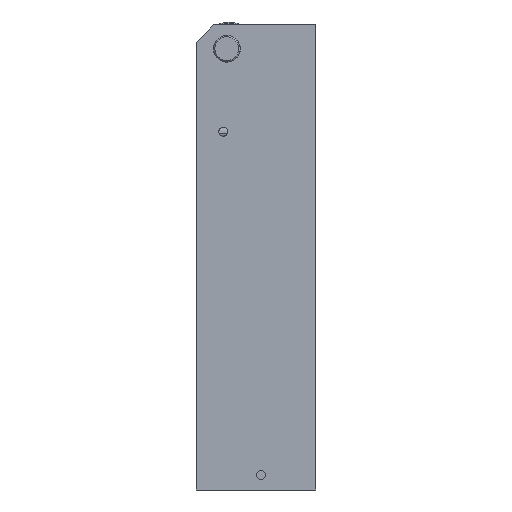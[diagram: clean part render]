
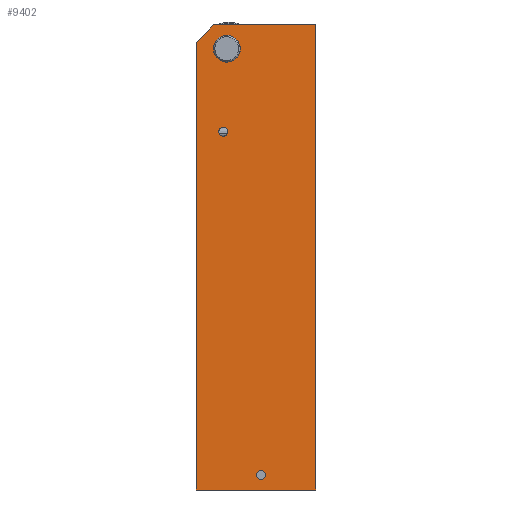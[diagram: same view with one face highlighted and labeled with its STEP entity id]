
A CAD part, left-side view. The second image highlights one B-rep face of the part: STEP entity #9402.
In plain terms, the highlighted planar face has unit normal (-1, 0, 0).
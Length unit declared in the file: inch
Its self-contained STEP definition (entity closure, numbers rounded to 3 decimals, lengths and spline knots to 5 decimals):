
#304 = VECTOR ( 'NONE', #2526, 39.37008 ) ;
#406 = ORIENTED_EDGE ( 'NONE', *, *, #13885, .F. ) ;
#506 = CARTESIAN_POINT ( 'NONE',  ( 0., 0.77, 0.21 ) ) ;
#941 = DIRECTION ( 'NONE',  ( 0., 0., -1. ) ) ;
#1142 = DIRECTION ( 'NONE',  ( -1., 0., 0. ) ) ;
#1381 = CIRCLE ( 'NONE', #3839, 0.0625 ) ;
#1515 = CARTESIAN_POINT ( 'NONE',  ( 0., 1.68, 0. ) ) ;
#1554 = EDGE_CURVE ( 'NONE', #1979, #1828, #4380, .T. ) ;
#1594 = DIRECTION ( 'NONE',  ( 0., 0., 1. ) ) ;
#1649 = CIRCLE ( 'NONE', #10324, 0.1885 ) ;
#1686 = CARTESIAN_POINT ( 'NONE',  ( 0., 0., 6.53 ) ) ;
#1698 = VERTEX_POINT ( 'NONE', #4925 ) ;
#1733 = LINE ( 'NONE', #12143, #8891 ) ;
#1828 = VERTEX_POINT ( 'NONE', #13759 ) ;
#1861 = VERTEX_POINT ( 'NONE', #8980 ) ;
#1897 = VERTEX_POINT ( 'NONE', #4368 ) ;
#1979 = VERTEX_POINT ( 'NONE', #4600 ) ;
#2139 = EDGE_CURVE ( 'NONE', #15239, #12662, #1733, .T. ) ;
#2526 = DIRECTION ( 'NONE',  ( 0., -1., 0. ) ) ;
#2556 = VECTOR ( 'NONE', #4243, 39.37008 ) ;
#2689 = DIRECTION ( 'NONE',  ( -1., 0., 0. ) ) ;
#2702 = DIRECTION ( 'NONE',  ( -1., 0., 0. ) ) ;
#2851 = ORIENTED_EDGE ( 'NONE', *, *, #14927, .F. ) ;
#3094 = ORIENTED_EDGE ( 'NONE', *, *, #10343, .F. ) ;
#3454 = LINE ( 'NONE', #10425, #13818 ) ;
#3688 = LINE ( 'NONE', #8430, #2556 ) ;
#3839 = AXIS2_PLACEMENT_3D ( 'NONE', #10512, #1142, #5845 ) ;
#3885 = CARTESIAN_POINT ( 'NONE',  ( 0., 1.25, 6.195 ) ) ;
#4108 = CARTESIAN_POINT ( 'NONE',  ( 0., 0.77, 0.2725 ) ) ;
#4129 = DIRECTION ( 'NONE',  ( 0., 0., 1. ) ) ;
#4243 = DIRECTION ( 'NONE',  ( 0., -1., 0. ) ) ;
#4368 = CARTESIAN_POINT ( 'NONE',  ( 0., 1.3, 4.9675 ) ) ;
#4380 = CIRCLE ( 'NONE', #5864, 0.1885 ) ;
#4595 = DIRECTION ( 'NONE',  ( 1., 0., 0. ) ) ;
#4600 = CARTESIAN_POINT ( 'NONE',  ( 0., 1.25, 6.3835 ) ) ;
#4925 = CARTESIAN_POINT ( 'NONE',  ( 0., 0., 6.53 ) ) ;
#5180 = EDGE_CURVE ( 'NONE', #1861, #15239, #3454, .T. ) ;
#5386 = ORIENTED_EDGE ( 'NONE', *, *, #2139, .T. ) ;
#5598 = FACE_BOUND ( 'NONE', #10149, .T. ) ;
#5679 = FACE_BOUND ( 'NONE', #11745, .T. ) ;
#5845 = DIRECTION ( 'NONE',  ( 0., 0., 1. ) ) ;
#5864 = AXIS2_PLACEMENT_3D ( 'NONE', #7421, #13198, #9704 ) ;
#6104 = CIRCLE ( 'NONE', #6865, 0.0625 ) ;
#6805 = LINE ( 'NONE', #11582, #11976 ) ;
#6865 = AXIS2_PLACEMENT_3D ( 'NONE', #13333, #2702, #12185 ) ;
#6960 = CARTESIAN_POINT ( 'NONE',  ( 0., 1.68, 6.28 ) ) ;
#7215 = LINE ( 'NONE', #9654, #304 ) ;
#7320 = VERTEX_POINT ( 'NONE', #13835 ) ;
#7421 = CARTESIAN_POINT ( 'NONE',  ( 0., 1.25, 6.195 ) ) ;
#7441 = DIRECTION ( 'NONE',  ( 0., 0., 1. ) ) ;
#7853 = FACE_OUTER_BOUND ( 'NONE', #8262, .T. ) ;
#8083 = EDGE_LOOP ( 'NONE', ( #14974, #10220 ) ) ;
#8129 = EDGE_CURVE ( 'NONE', #12662, #7320, #7215, .T. ) ;
#8140 = AXIS2_PLACEMENT_3D ( 'NONE', #1686, #4595, #12844 ) ;
#8142 = EDGE_CURVE ( 'NONE', #1861, #1698, #3688, .T. ) ;
#8262 = EDGE_LOOP ( 'NONE', ( #8813, #11225, #5386, #11683, #12739 ) ) ;
#8430 = CARTESIAN_POINT ( 'NONE',  ( 0., 0., 6.53 ) ) ;
#8437 = AXIS2_PLACEMENT_3D ( 'NONE', #10032, #14802, #4129 ) ;
#8813 = ORIENTED_EDGE ( 'NONE', *, *, #8142, .F. ) ;
#8891 = VECTOR ( 'NONE', #11132, 39.37008 ) ;
#8980 = CARTESIAN_POINT ( 'NONE',  ( 0., 1.43, 6.53 ) ) ;
#9188 = CIRCLE ( 'NONE', #8437, 0.0625 ) ;
#9402 = ADVANCED_FACE ( 'NONE', ( #5598, #5679, #11458, #7853 ), #10270, .F. ) ;
#9654 = CARTESIAN_POINT ( 'NONE',  ( 0., 0., 0. ) ) ;
#9693 = EDGE_CURVE ( 'NONE', #13484, #14214, #13628, .T. ) ;
#9704 = DIRECTION ( 'NONE',  ( 0., 0., 1. ) ) ;
#10032 = CARTESIAN_POINT ( 'NONE',  ( 0., 1.3, 5.03 ) ) ;
#10149 = EDGE_LOOP ( 'NONE', ( #10649, #2851 ) ) ;
#10220 = ORIENTED_EDGE ( 'NONE', *, *, #15326, .F. ) ;
#10270 = PLANE ( 'NONE',  #8140 ) ;
#10324 = AXIS2_PLACEMENT_3D ( 'NONE', #3885, #13214, #7441 ) ;
#10343 = EDGE_CURVE ( 'NONE', #14868, #1897, #9188, .T. ) ;
#10425 = CARTESIAN_POINT ( 'NONE',  ( 0., 1.43, 6.53 ) ) ;
#10512 = CARTESIAN_POINT ( 'NONE',  ( 0., 1.3, 5.03 ) ) ;
#10649 = ORIENTED_EDGE ( 'NONE', *, *, #1554, .F. ) ;
#10968 = CARTESIAN_POINT ( 'NONE',  ( 0., 1.3, 5.0925 ) ) ;
#11132 = DIRECTION ( 'NONE',  ( 0., 0., -1. ) ) ;
#11225 = ORIENTED_EDGE ( 'NONE', *, *, #5180, .T. ) ;
#11458 = FACE_BOUND ( 'NONE', #8083, .T. ) ;
#11582 = CARTESIAN_POINT ( 'NONE',  ( 0., 0., 6.53 ) ) ;
#11683 = ORIENTED_EDGE ( 'NONE', *, *, #8129, .T. ) ;
#11745 = EDGE_LOOP ( 'NONE', ( #3094, #406 ) ) ;
#11976 = VECTOR ( 'NONE', #941, 39.37008 ) ;
#12143 = CARTESIAN_POINT ( 'NONE',  ( 0., 1.68, 6.53 ) ) ;
#12185 = DIRECTION ( 'NONE',  ( 0., 0., 1. ) ) ;
#12391 = EDGE_CURVE ( 'NONE', #1698, #7320, #6805, .T. ) ;
#12662 = VERTEX_POINT ( 'NONE', #1515 ) ;
#12739 = ORIENTED_EDGE ( 'NONE', *, *, #12391, .F. ) ;
#12844 = DIRECTION ( 'NONE',  ( 0., 0., -1. ) ) ;
#13198 = DIRECTION ( 'NONE',  ( -1., 0., 0. ) ) ;
#13214 = DIRECTION ( 'NONE',  ( -1., 0., 0. ) ) ;
#13333 = CARTESIAN_POINT ( 'NONE',  ( 0., 0.77, 0.21 ) ) ;
#13484 = VERTEX_POINT ( 'NONE', #4108 ) ;
#13628 = CIRCLE ( 'NONE', #15131, 0.0625 ) ;
#13759 = CARTESIAN_POINT ( 'NONE',  ( 0., 1.25, 6.0065 ) ) ;
#13818 = VECTOR ( 'NONE', #15210, 39.37008 ) ;
#13835 = CARTESIAN_POINT ( 'NONE',  ( 0., 0., 0. ) ) ;
#13885 = EDGE_CURVE ( 'NONE', #1897, #14868, #1381, .T. ) ;
#14148 = CARTESIAN_POINT ( 'NONE',  ( 0., 0.77, 0.1475 ) ) ;
#14214 = VERTEX_POINT ( 'NONE', #14148 ) ;
#14802 = DIRECTION ( 'NONE',  ( -1., 0., 0. ) ) ;
#14868 = VERTEX_POINT ( 'NONE', #10968 ) ;
#14927 = EDGE_CURVE ( 'NONE', #1828, #1979, #1649, .T. ) ;
#14974 = ORIENTED_EDGE ( 'NONE', *, *, #9693, .F. ) ;
#15131 = AXIS2_PLACEMENT_3D ( 'NONE', #506, #2689, #1594 ) ;
#15210 = DIRECTION ( 'NONE',  ( 0., 0.707, -0.707 ) ) ;
#15239 = VERTEX_POINT ( 'NONE', #6960 ) ;
#15326 = EDGE_CURVE ( 'NONE', #14214, #13484, #6104, .T. ) ;
